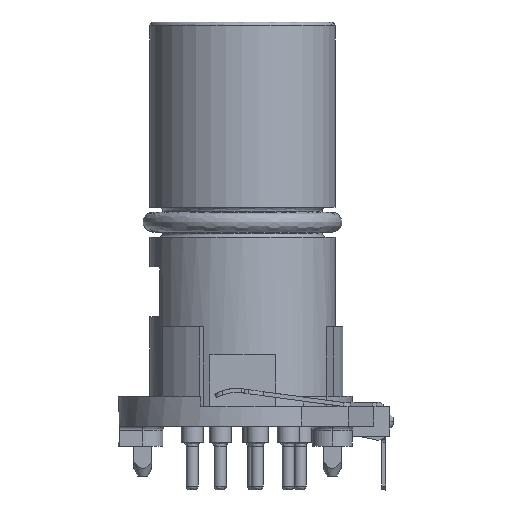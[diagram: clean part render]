
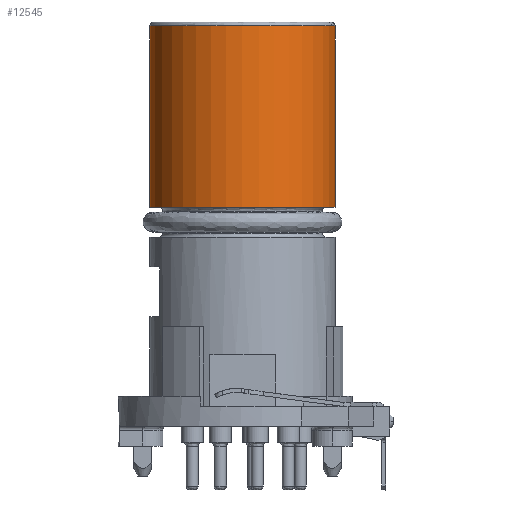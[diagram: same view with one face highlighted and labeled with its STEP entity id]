
A CAD part, left-side view. The second image highlights one B-rep face of the part: STEP entity #12545.
In plain terms, the highlighted cylindrical face has radius 4.65 mm (diameter 9.3 mm), a partial arc.
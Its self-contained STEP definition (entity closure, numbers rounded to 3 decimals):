
#83 = EDGE_LOOP ( 'NONE', ( #8256, #15703, #9147, #12410 ) ) ;
#2264 = EDGE_CURVE ( 'NONE', #14650, #11004, #4664, .T. ) ;
#2921 = DIRECTION ( 'NONE',  ( 0., 1., 0. ) ) ;
#3595 = CARTESIAN_POINT ( 'NONE',  ( 0., 4.65, -9.3 ) ) ;
#4015 = EDGE_CURVE ( 'NONE', #4709, #11004, #7713, .T. ) ;
#4143 = DIRECTION ( 'NONE',  ( 0., 0., -1. ) ) ;
#4664 = CIRCLE ( 'NONE', #13227, 4.65 ) ;
#4709 = VERTEX_POINT ( 'NONE', #14028 ) ;
#5674 = DIRECTION ( 'NONE',  ( 0., 0., 1. ) ) ;
#5891 = EDGE_CURVE ( 'NONE', #14650, #6515, #18252, .T. ) ;
#6231 = DIRECTION ( 'NONE',  ( 0., 0., 1. ) ) ;
#6515 = VERTEX_POINT ( 'NONE', #3595 ) ;
#7130 = FACE_OUTER_BOUND ( 'NONE', #83, .T. ) ;
#7224 = DIRECTION ( 'NONE',  ( -1., 0., 0. ) ) ;
#7713 = LINE ( 'NONE', #9715, #19455 ) ;
#8256 = ORIENTED_EDGE ( 'NONE', *, *, #16616, .T. ) ;
#9147 = ORIENTED_EDGE ( 'NONE', *, *, #2264, .F. ) ;
#9715 = CARTESIAN_POINT ( 'NONE',  ( 0., -4.65, -0.018 ) ) ;
#10152 = CARTESIAN_POINT ( 'NONE',  ( 0., 0., -9.3 ) ) ;
#11004 = VERTEX_POINT ( 'NONE', #18578 ) ;
#12328 = CARTESIAN_POINT ( 'NONE',  ( 0., 4.65, -0.2 ) ) ;
#12410 = ORIENTED_EDGE ( 'NONE', *, *, #5891, .T. ) ;
#12449 = AXIS2_PLACEMENT_3D ( 'NONE', #10152, #5674, #19088 ) ;
#12545 = ADVANCED_FACE ( 'NONE', ( #7130 ), #13181, .T. ) ;
#13181 = CYLINDRICAL_SURFACE ( 'NONE', #14830, 4.65 ) ;
#13227 = AXIS2_PLACEMENT_3D ( 'NONE', #16526, #16145, #2921 ) ;
#13677 = DIRECTION ( 'NONE',  ( 0., 0., -1. ) ) ;
#14028 = CARTESIAN_POINT ( 'NONE',  ( 0., -4.65, -9.3 ) ) ;
#14650 = VERTEX_POINT ( 'NONE', #12328 ) ;
#14830 = AXIS2_PLACEMENT_3D ( 'NONE', #17764, #4143, #7224 ) ;
#15703 = ORIENTED_EDGE ( 'NONE', *, *, #4015, .T. ) ;
#16145 = DIRECTION ( 'NONE',  ( 0., 0., 1. ) ) ;
#16526 = CARTESIAN_POINT ( 'NONE',  ( 0., 0., -0.2 ) ) ;
#16616 = EDGE_CURVE ( 'NONE', #6515, #4709, #19437, .T. ) ;
#17764 = CARTESIAN_POINT ( 'NONE',  ( 0., 0., -0.018 ) ) ;
#18158 = CARTESIAN_POINT ( 'NONE',  ( 0., 4.65, -0.018 ) ) ;
#18252 = LINE ( 'NONE', #18158, #19513 ) ;
#18578 = CARTESIAN_POINT ( 'NONE',  ( 0., -4.65, -0.2 ) ) ;
#19088 = DIRECTION ( 'NONE',  ( -1., 0., 0. ) ) ;
#19437 = CIRCLE ( 'NONE', #12449, 4.65 ) ;
#19455 = VECTOR ( 'NONE', #6231, 1000. ) ;
#19513 = VECTOR ( 'NONE', #13677, 1000. ) ;
